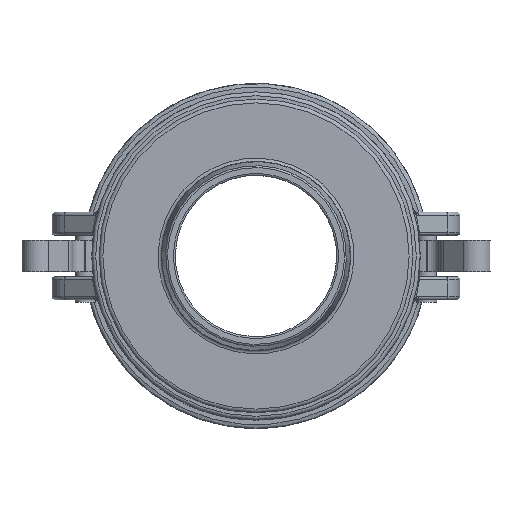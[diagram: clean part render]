
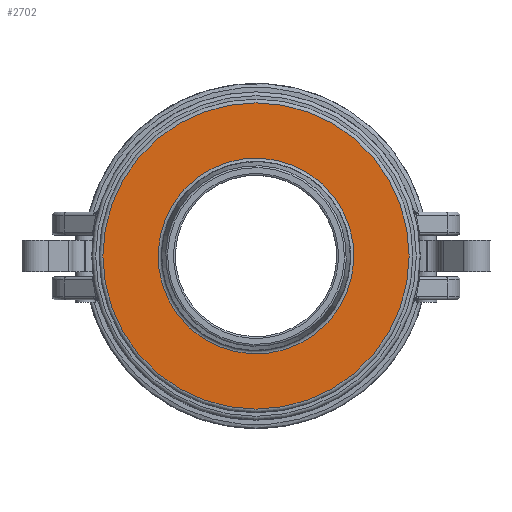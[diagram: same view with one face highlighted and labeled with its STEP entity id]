
A CAD part, left-side view. The second image highlights one B-rep face of the part: STEP entity #2702.
In plain terms, the highlighted planar face has unit normal (-1, 0, 0).
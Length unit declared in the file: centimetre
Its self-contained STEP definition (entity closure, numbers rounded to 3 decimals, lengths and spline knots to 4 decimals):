
#967=VERTEX_POINT('',#3695);
#1012=VERTEX_POINT('',#3968);
#1183=CIRCLE('',#2840,3.9624);
#1208=CIRCLE('',#2887,6.1976);
#1309=EDGE_CURVE('',#967,#967,#1183,.T.);
#1354=EDGE_CURVE('',#1012,#1012,#1208,.F.);
#1690=ORIENTED_EDGE('',*,*,#1309,.F.);
#1691=ORIENTED_EDGE('',*,*,#1354,.F.);
#2283=EDGE_LOOP('',(#1690));
#2284=EDGE_LOOP('',(#1691));
#2507=FACE_BOUND('',#2283,.T.);
#2508=FACE_BOUND('',#2284,.T.);
#2702=ADVANCED_FACE('',(#2507,#2508),#9879,.T.);
#2840=AXIS2_PLACEMENT_3D('',#3694,#3116,#3117);
#2887=AXIS2_PLACEMENT_3D('',#3967,#3207,#3208);
#2889=AXIS2_PLACEMENT_3D('',#3971,#3211,$);
#3116=DIRECTION('',(-1.,0.,0.));
#3117=DIRECTION('',(0.,3.958,0.181));
#3207=DIRECTION('',(-1.,0.,0.));
#3208=DIRECTION('',(0.,0.,6.198));
#3211=DIRECTION('',(-1.,0.,0.));
#3694=CARTESIAN_POINT('',(-5.6134,0.,0.));
#3695=CARTESIAN_POINT('',(-5.6134,-3.9583,-0.181));
#3967=CARTESIAN_POINT('',(-5.6134,0.,0.));
#3968=CARTESIAN_POINT('',(-5.6134,0.,-6.1976));
#3971=CARTESIAN_POINT('',(-5.6134,0.,-5.7751));
#9879=PLANE('',#2889);
